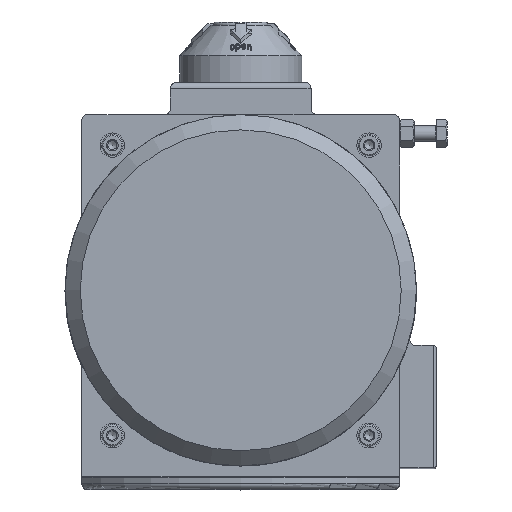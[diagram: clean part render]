
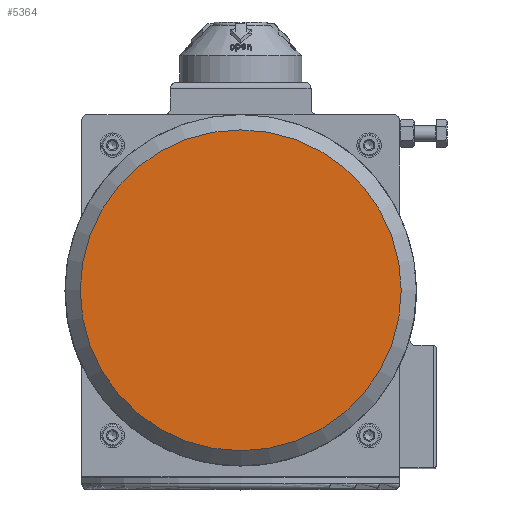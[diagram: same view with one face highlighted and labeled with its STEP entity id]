
A CAD part, top view. The second image highlights one B-rep face of the part: STEP entity #5364.
In plain terms, the highlighted planar face has unit normal (0, 0, 1).
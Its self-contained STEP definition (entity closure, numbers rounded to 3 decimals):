
#5364=ADVANCED_FACE('',(#13291),#13293,.T.);
#13291=FACE_BOUND('',#13292,.T.);
#13292=EDGE_LOOP('',(#20298));
#13293=PLANE('',#13294);
#13294=AXIS2_PLACEMENT_3D('',#13295,#13296,#13297);
#13295=CARTESIAN_POINT('',(0.,0.,134.));
#13296=DIRECTION('',(0.,0.,1.));
#13297=DIRECTION('',(1.,0.,0.));
#20298=ORIENTED_EDGE('',*,*,#23994,.T.);
#23994=EDGE_CURVE('',#27657,#27657,#27658,.T.);
#27657=VERTEX_POINT('',#45253);
#27658=CIRCLE('',#45254,52.5);
#45253=CARTESIAN_POINT('',(52.5,0.,134.));
#45254=AXIS2_PLACEMENT_3D('',#45255,#45256,#45257);
#45255=CARTESIAN_POINT('',(0.,0.,134.));
#45256=DIRECTION('',(0.,0.,1.));
#45257=DIRECTION('',(1.,0.,0.));
